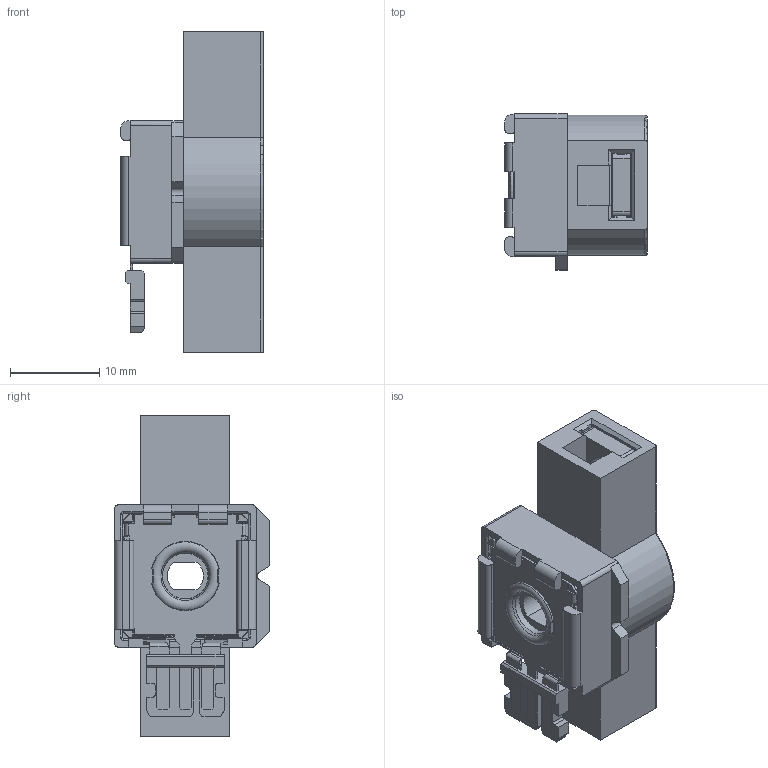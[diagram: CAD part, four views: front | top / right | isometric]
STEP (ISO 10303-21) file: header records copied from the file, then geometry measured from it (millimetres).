
FILE_DESCRIPTION(/* description */ (''),/* implementation_level */ '2;1');
FILE_NAME(/* name */ 'C:\Users\CEM\Desktop\ENVIAR\TRANSICION 3D CATALOGOS\CSF14NHPL SI.stp',/* time_stamp */ '2025-11-19T16:53:26+01:00',/* author */ ('CEM'),/* organization */ (''),/* preprocessor_version */ 'ST-DEVELOPER v16.13',/* originating_system */ 'Autodesk Inventor 2018',/* authorisation */ '');
FILE_SCHEMA (('AUTOMOTIVE_DESIGN { 1 0 10303 214 3 1 1 }'));
Length unit declared in the file: millimetre
Products named in the file (1): CSF14NHPL SI
Bounding box: 16 x 17.5 x 36 mm (x, y, z)
Volume: 3449.6 mm3; surface area: 5221.3 mm2
Topology: 1 solids, 6 shells, 972 faces, 2783 edges, 1787 vertices
Faces by surface type: plane 741, cylinder 203, cone 11, torus 11, bspline 6
Full cylindrical faces by diameter (mm): 1 x3, 3.242 x2, 4.35 x2, 4.5 x1, 5.5 x1, 5.65 x1, 6 x1, 6.093 x1, 6.15 x1, 6.87 x1, 9.5 x1, 13 x1, 14 x1
Entity records: 32456 total; most frequent: CARTESIAN_POINT 5853, ORIENTED_EDGE 5498, DIRECTION 5108, EDGE_CURVE 2744, LINE 2240, VECTOR 2240, VERTEX_POINT 1774, AXIS2_PLACEMENT_3D 1434
